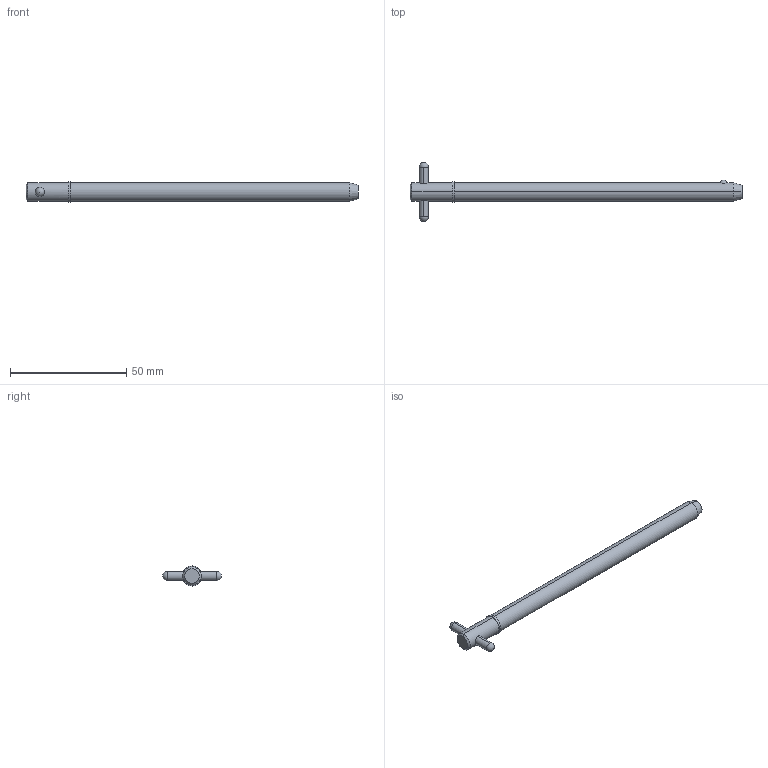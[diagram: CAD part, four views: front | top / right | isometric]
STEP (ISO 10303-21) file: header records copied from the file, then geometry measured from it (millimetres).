
FILE_DESCRIPTION (( 'STEP AP203' ), '1' );
FILE_NAME ('33018.W3145.step', '2024-11-19T17:10:13', ( '' ), ( '' ), 'SwSTEP 2.0', 'SolidWorks 2019', '' );
FILE_SCHEMA (( 'CONFIG_CONTROL_DESIGN' ));
Length unit declared in the file: millimetre
Products named in the file (3): Part1_33018.W3145; Part2_33018.W3145; 33018.W3145
Assembly tree (2 placements, depth 2):
  33018.W3145
    Part1_33018.W3145
    Part2_33018.W3145
Bounding box: 142.88 x 25.4 x 8.73 mm (x, y, z)
Volume: 7240.8 mm3; surface area: 4031.1 mm2
Topology: 2 solids, 2 shells, 22 faces, 47 edges, 30 vertices
Faces by surface type: cylinder 10, sphere 4, cone 4, plane 4
Entity records: 1013 total; most frequent: CARTESIAN_POINT 256, DIRECTION 110, ORIENTED_EDGE 82, AXIS2_PLACEMENT_3D 48, EDGE_CURVE 41, EDGE_LOOP 27, PERSON_AND_ORGANIZATION 26, VERTEX_POINT 26
